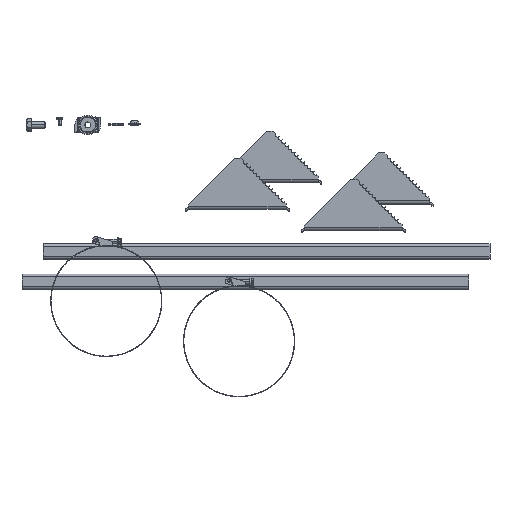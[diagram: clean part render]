
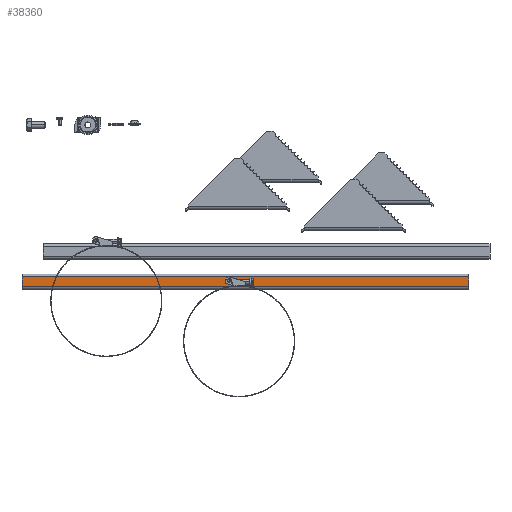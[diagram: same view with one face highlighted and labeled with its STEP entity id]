
A CAD part, top view. The second image highlights one B-rep face of the part: STEP entity #38360.
In plain terms, the highlighted planar face has unit normal (0, 0, 1).
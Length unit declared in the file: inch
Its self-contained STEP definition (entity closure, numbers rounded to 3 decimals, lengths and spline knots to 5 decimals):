
#1284 = CARTESIAN_POINT ( 'NONE',  ( -11.9375, 0., 0.8125 ) ) ;
#3262 = DIRECTION ( 'NONE',  ( 0., 0., -1. ) ) ;
#4287 = EDGE_CURVE ( 'NONE', #20935, #10429, #8331, .T. ) ;
#6156 = ORIENTED_EDGE ( 'NONE', *, *, #30800, .F. ) ;
#7417 = DIRECTION ( 'NONE',  ( -1., 0., 0. ) ) ;
#7589 = CARTESIAN_POINT ( 'NONE',  ( 11.9375, 0.152, 0.8125 ) ) ;
#8331 = LINE ( 'NONE', #7589, #52344 ) ;
#9693 = VECTOR ( 'NONE', #41711, 39.37008 ) ;
#10308 = FACE_OUTER_BOUND ( 'NONE', #29800, .T. ) ;
#10429 = VERTEX_POINT ( 'NONE', #47656 ) ;
#18529 = DIRECTION ( 'NONE',  ( 0., -1., 0. ) ) ;
#19518 = VERTEX_POINT ( 'NONE', #33215 ) ;
#19559 = VERTEX_POINT ( 'NONE', #22878 ) ;
#20935 = VERTEX_POINT ( 'NONE', #21301 ) ;
#21006 = LINE ( 'NONE', #54570, #9693 ) ;
#21301 = CARTESIAN_POINT ( 'NONE',  ( 11.9375, 0.152, 0.8125 ) ) ;
#22878 = CARTESIAN_POINT ( 'NONE',  ( -11.9375, 0.66, 0.8125 ) ) ;
#26738 = VECTOR ( 'NONE', #54534, 39.37008 ) ;
#28000 = EDGE_CURVE ( 'NONE', #19559, #10429, #53094, .T. ) ;
#28742 = CARTESIAN_POINT ( 'NONE',  ( 11.9375, 0., 0.8125 ) ) ;
#29081 = VECTOR ( 'NONE', #18529, 39.37008 ) ;
#29800 = EDGE_LOOP ( 'NONE', ( #44384, #47520, #6156, #52833 ) ) ;
#30800 = EDGE_CURVE ( 'NONE', #19518, #20935, #39405, .T. ) ;
#32311 = AXIS2_PLACEMENT_3D ( 'NONE', #28742, #3262, #33008 ) ;
#33008 = DIRECTION ( 'NONE',  ( -1., 0., 0. ) ) ;
#33215 = CARTESIAN_POINT ( 'NONE',  ( 11.9375, 0.66, 0.8125 ) ) ;
#37095 = PLANE ( 'NONE',  #32311 ) ;
#38360 = ADVANCED_FACE ( 'NONE', ( #10308 ), #37095, .F. ) ;
#39405 = LINE ( 'NONE', #47071, #26738 ) ;
#41711 = DIRECTION ( 'NONE',  ( -1., 0., 0. ) ) ;
#44384 = ORIENTED_EDGE ( 'NONE', *, *, #28000, .T. ) ;
#47071 = CARTESIAN_POINT ( 'NONE',  ( 11.9375, 0., 0.8125 ) ) ;
#47520 = ORIENTED_EDGE ( 'NONE', *, *, #4287, .F. ) ;
#47656 = CARTESIAN_POINT ( 'NONE',  ( -11.9375, 0.152, 0.8125 ) ) ;
#51809 = EDGE_CURVE ( 'NONE', #19518, #19559, #21006, .T. ) ;
#52344 = VECTOR ( 'NONE', #7417, 39.37008 ) ;
#52833 = ORIENTED_EDGE ( 'NONE', *, *, #51809, .T. ) ;
#53094 = LINE ( 'NONE', #1284, #29081 ) ;
#54534 = DIRECTION ( 'NONE',  ( 0., -1., 0. ) ) ;
#54570 = CARTESIAN_POINT ( 'NONE',  ( 11.9375, 0.66, 0.8125 ) ) ;
